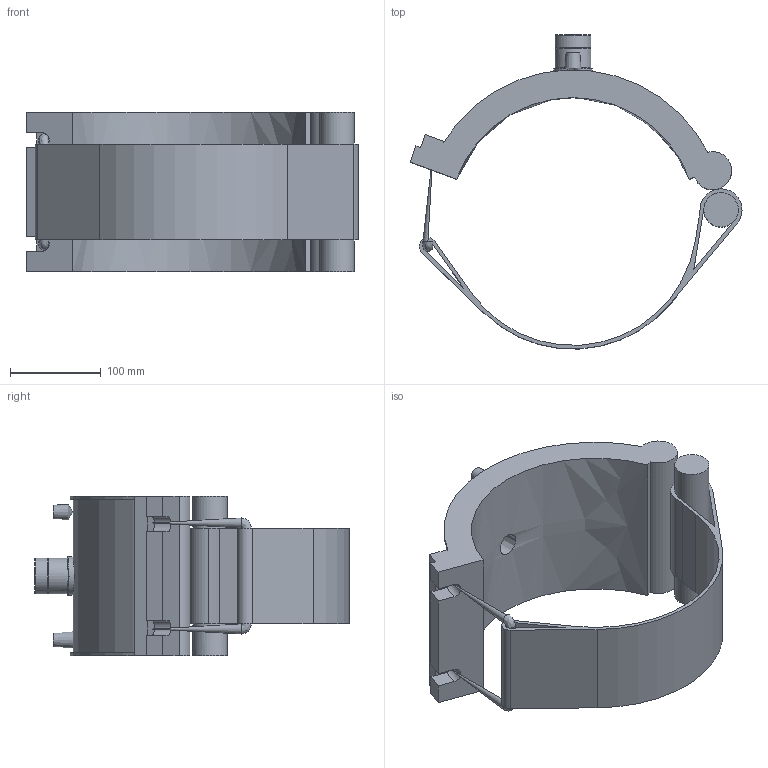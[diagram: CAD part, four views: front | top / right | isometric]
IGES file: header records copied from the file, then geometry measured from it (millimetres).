
Global section: file name: 5938B00310045.ipt; native system: Autodesk Inventor 2019; preprocessor: unknown; author: KIM; date: 20210830.101106; units: inch
Bounding box: 365.45 x 345.77 x 176.02 mm (x, y, z)
Volume: 2623855.2 mm3; surface area: 370515.6 mm2
Topology: 2 solids, 3 shells, 78 faces, 192 edges, 126 vertices
Faces by surface type: plane 42, cylinder 19, revolution 11, cone 5, bspline 1
Full cylindrical faces by diameter (mm): 4 x2, 10.908 x2, 37.968 x1, 38.378 x1, 39.378 x2, 42.407 x1
